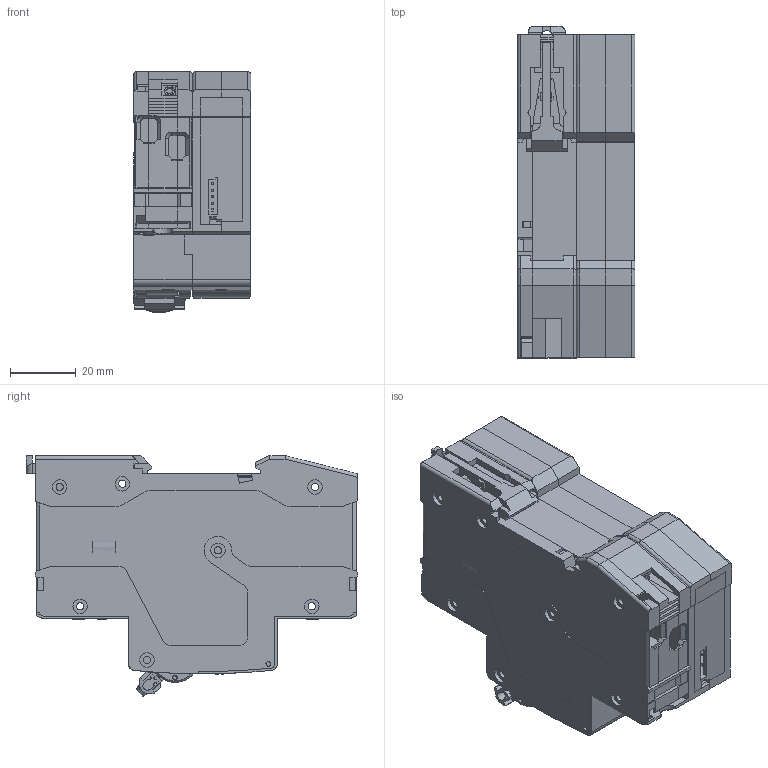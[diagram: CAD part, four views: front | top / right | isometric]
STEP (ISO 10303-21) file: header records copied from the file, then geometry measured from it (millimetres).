
FILE_DESCRIPTION((''),'2;1');
FILE_NAME('NB2','2024-04-12T13:36:39',('yuk'),(''),'CREO PARAMETRIC BY PTC INC, 2020044','CREO PARAMETRIC BY PTC INC, 2020044','');
FILE_SCHEMA(('CONFIG_CONTROL_DESIGN','SHAPE_APPEARANCE_LAYERS_GROUPS'));
Products named in the file (1): NB2
Bounding box: 35.79 x 100.7 x 73 mm (x, y, z)
Surface area: 120729.2 mm2 (no closed solid volume)
Topology: 0 solids, 35 shells, 4207 faces, 12004 edges, 7938 vertices
Faces by surface type: plane 3058, cylinder 888, cone 95, torus 85, bspline 44, extrusion 23, sphere 14
Entity records: 165714 total; most frequent: CARTESIAN_POINT 27757, ORIENTED_EDGE 23978, DIRECTION 22322, EDGE_CURVE 11989, VECTOR 9056, LINE 9033, VERTEX_POINT 7938, AXIS2_PLACEMENT_3D 6633
